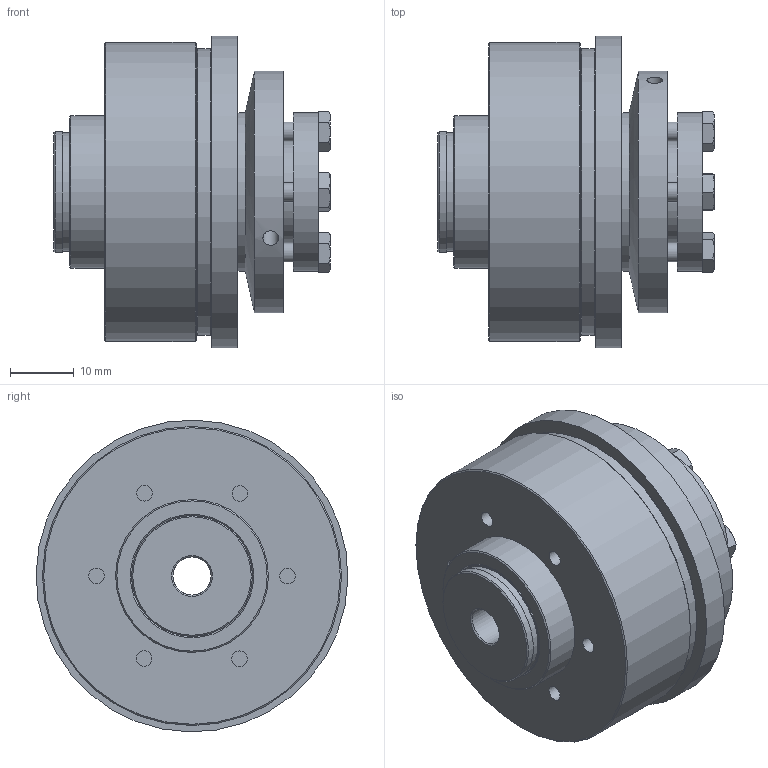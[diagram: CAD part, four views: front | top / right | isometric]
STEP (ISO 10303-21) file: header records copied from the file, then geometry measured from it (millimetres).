
FILE_DESCRIPTION( ( 'Unknown' ), '1' );
FILE_NAME( 'C:/Users/TWalzel/Documents/CAD-Daten/KBK-CI/10/KBK C-I-10.stp', 'Unknown', ( 'Unknown' ), ( 'Unknown' ), 'PSStep 16.0.42', 'Unknown', ' ' );
FILE_SCHEMA( ( 'AUTOMOTIVE_DESIGN { 1 0 10303 214 1 1 1 1 }' ) );
Length unit declared in the file: millimetre
Products named in the file (11): din_en_24017_m3x12; Konusbuchse KBK 10; Stellring 10; Druckring 10; Assem1; Flansch-Gleitlager CK-7; Grundkörper C-I-10_1
Assembly tree (13 placements, depth 3):
  Assem1
    Flansch-Gleitlager CK-7
    Grundkörper C-I-10_1
    Stellring 10
      Stellring 10
    Druckring 10
      Druckring 10
    Konusbuchse KBK 10
      Konusbuchse KBK 10
    din_en_24017_m3x12  x4
      din_en_24017_m3x12
Bounding box: 43.45 x 48.99 x 48.99 mm (x, y, z)
Volume: 45269 mm3; surface area: 23003.7 mm2
Topology: 9 solids, 9 shells, 197 faces, 414 edges, 257 vertices
Faces by surface type: plane 90, cone 51, cylinder 50, torus 6
Full cylindrical faces by diameter (mm): 2.459 x20, 3 x4, 3.1 x4, 4.57 x4, 6 x2, 16 x1, 18.6 x1, 19 x3, 24 x3, 25 x2, 29.993 x1, 38 x1, 40 x1, 45 x1, 47 x1, 49 x1
Entity records: 4530 total; most frequent: CARTESIAN_POINT 711, DIRECTION 600, ORIENTED_EDGE 386, AXIS2_PLACEMENT_3D 282, EDGE_LOOP 236, EDGE_CURVE 193, FACE_OUTER_BOUND 178, VERTEX_POINT 153
